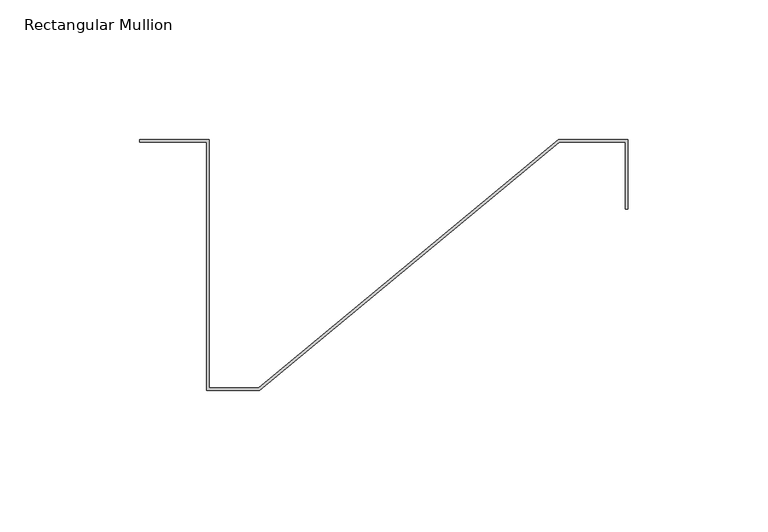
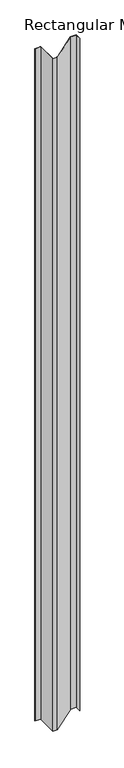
"""IFC4 building model written with IfcOpenShell, lengths in millimetres: member geometry, Rectangular Mullion : CD_NINELINE_Sawtooth End."""

from ifc_helpers import new_model, si_unit, frame, origin, place, context, project, spatial, polyline, outline, extrude, source, transform, mapped, element, save


def rectangular_mullion_76378f7f(model_context):
    return source(origin(), model_context, "Body", "SweptSolid", [
        extrude(outline(polyline([(-150.0, 0.0), (-150.0, -89.0), (-132.4248505, -89.0), (-25.0, 0.0), (0.0, 0.0), (0.0, -25.0), (-1.0, -25.0), (-1.0, -1.0), (-24.587175, -1.0), (-132.0120255, -90.0), (-151.0, -90.0), (-151.0, -1.0), (-175.0, -1.0), (-175.0, 0.0), (-150.0, 0.0)])), frame((0.0, 0.0, -3000.0), z_axis=(0.0, 0.0, 1.0), x_axis=(1.0, 0.0, 0.0)), (0.0, 0.0, 1.0), 3000.0),
    ])


if __name__ == "__main__":
    model = new_model("IFC4")
    model_context = context("Model", 3, world=origin())
    ifc_project = project(units=[si_unit("LENGTHUNIT", "METRE", prefix="MILLI")], contexts=[model_context])
    site = spatial("IfcSite", under=ifc_project)
    building = spatial("IfcBuilding", under=site)
    placement = place(None, origin())
    rectangular_mullion_shape = rectangular_mullion_76378f7f(model_context)
    element("IfcMember", 1, ObjectType="Rectangular Mullion : CD_NINELINE_Sawtooth End", at=placement, inside=building, context=model_context, shape_type="MappedRepresentation", body=[
        mapped(rectangular_mullion_shape, transform((0.0, 0.0, 0.0), x_axis=(1.0, 0.0, 0.0), y_axis=(0.0, 1.0, 0.0), z_axis=(0.0, 0.0, 1.0))),
    ])
    save(model, "model.ifc")
